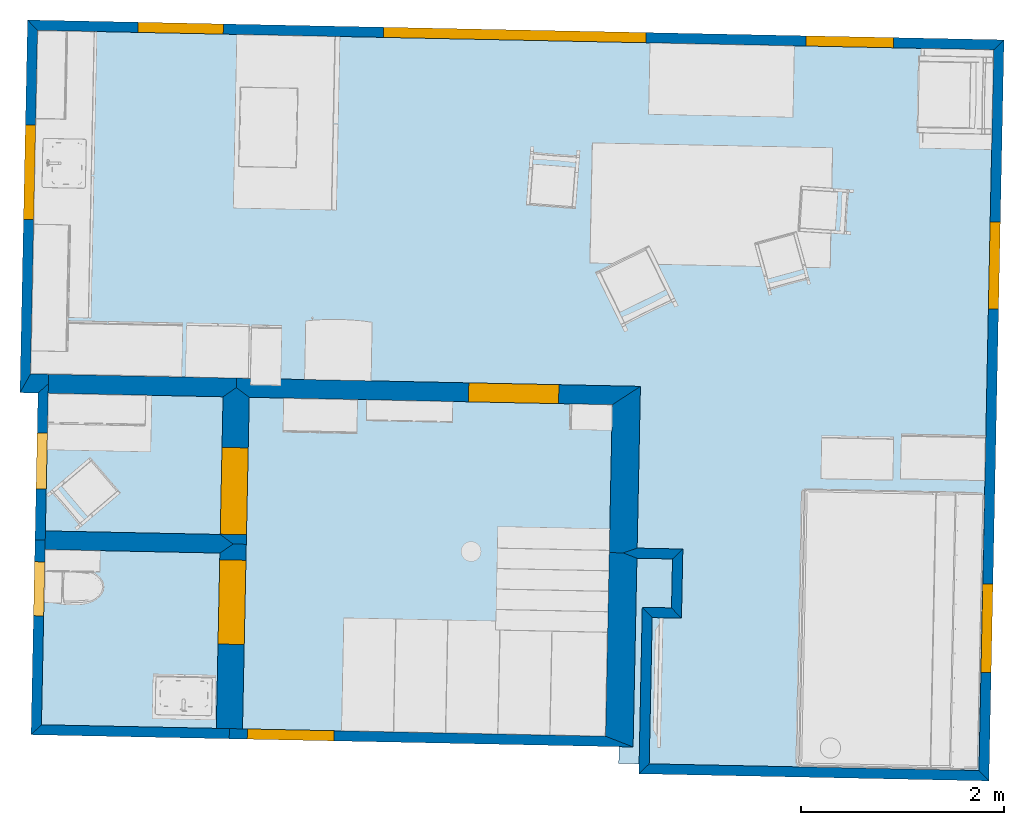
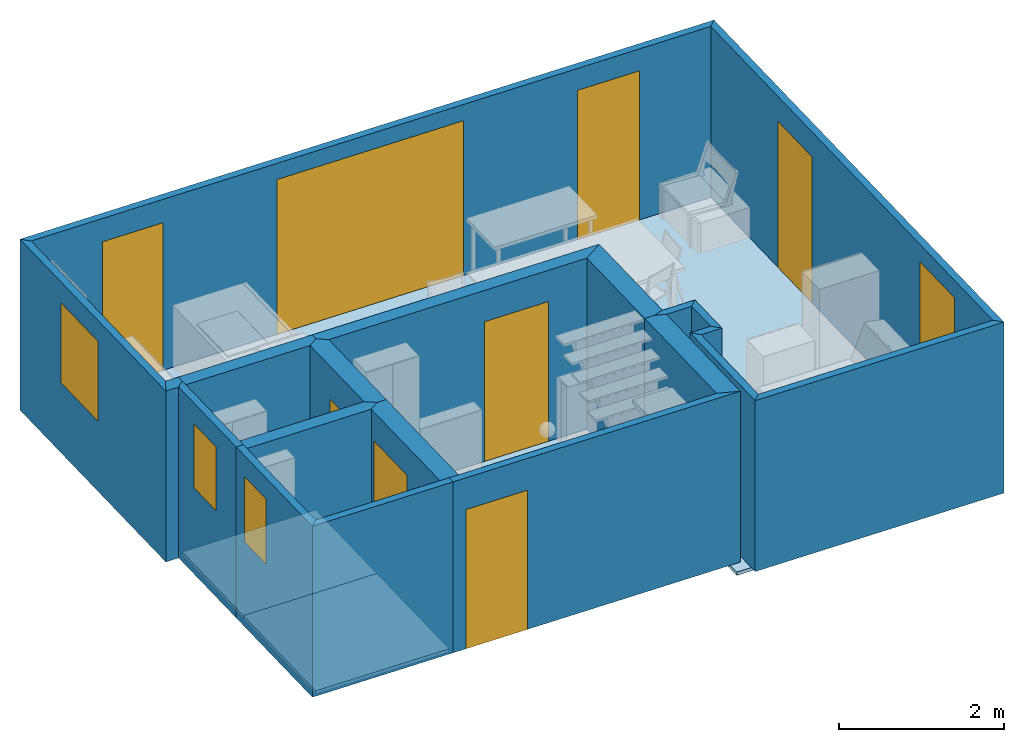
# One storey, part 1 of 8: 20 walls, 8 windows, 5 slabs, 4 doors, 12 openings.
"""IFC2X3 building model written with IfcOpenShell, lengths in metres."""

from ifc_helpers import new_model, si_unit, frame, origin_with_axes, place, context, subcontext, project, spatial, polyline, outline, extrude, type_object, element, fill, save


model = new_model("IFC2X3")

# Units and contexts
model_context = context("Model", 3, precision=1e-05, world=origin_with_axes())
body_context = subcontext(model_context, "Body", "Model", "MODEL_VIEW")
ifc_project = project(units=[si_unit("AREAUNIT", "SQUARE_METRE"), si_unit("LENGTHUNIT", "METRE")], contexts=[model_context])

# Site, building, storey
site_placement = place(None, origin_with_axes())
site = spatial("IfcSite", under=ifc_project, at=site_placement, Name="Site", CompositionType="ELEMENT")
building_placement = place(site_placement, origin_with_axes())
building = spatial("IfcBuilding", under=site, at=building_placement, Name="Building", CompositionType="ELEMENT")
storey_placement = place(building_placement, frame((0.0, 0.0, 2.8867046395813), z_axis=(0.0, 0.0, 1.0), x_axis=(1.0, 0.0, 0.0)))
storey = spatial("IfcBuildingStorey", under=building, at=storey_placement, Name="Story 1", CompositionType="ELEMENT", Elevation=2.8867045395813)

# Slabs
slab_type_1 = type_object("IfcSlabType", PredefinedType="FLOOR")
slab_1_placement = place(storey_placement, frame((-1.98736273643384, -2.66618078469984, 0.0), z_axis=(0.0, 0.0, 1.0), x_axis=(1.0, 0.0, 0.0)))
element("IfcSlab", 1, at=slab_1_placement, inside=storey, type_object=slab_type_1, Name="Floor", ObjectType="Floor:Floor-Grnd-Susp_65Scr-80Ins-100Blk-75PC", PredefinedType="FLOOR", context=body_context, shape_type="SweptSolid", body=[
    extrude(outline(polyline([(0.0, 0.0), (-0.0368688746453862, -1.80962447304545), (-0.042266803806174, -2.07456949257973), (0.207681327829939, -2.07966187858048), (0.238133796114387, -0.584972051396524), (0.528073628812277, -0.590879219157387), (0.539887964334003, -0.0109995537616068), (0.0, 0.0)])), origin_with_axes(), (0.0, 0.0, -1.0), 0.05),
])
slab_type_2 = type_object("IfcSlabType", PredefinedType="FLOOR")
slab_2_placement = place(storey_placement, frame((-7.82754921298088, -0.995759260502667, 0.0), z_axis=(0.0, 0.0, 1.0), x_axis=(1.0, 0.0, 0.0)))
element("IfcSlab", 2, at=slab_2_placement, inside=storey, type_object=slab_type_2, Name="Floor", ObjectType="Floor:Floor-Grnd-Susp_65Scr-80Ins-100Blk-75PC", PredefinedType="FLOOR", context=body_context, shape_type="SweptSolid", body=[
    extrude(outline(polyline([(0.0, 0.0), (0.0708838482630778, 3.47920385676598), (9.49300564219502, 3.28724092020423), (9.34830368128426, -3.81512986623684), (6.0489911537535, -3.74791089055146), (6.07936159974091, -2.25724063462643), (6.3674223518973, -2.26310936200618), (6.37927840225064, -1.68116881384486), (5.8420354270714, -1.67022309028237), (5.87362623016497, -0.119667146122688), (2.0300831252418, -0.0413600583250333), (0.177963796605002, -0.00362558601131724), (0.0, 0.0)])), origin_with_axes(), (0.0, 0.0, -1.0), 0.05),
])
slab_type_3 = type_object("IfcSlabType", PredefinedType="FLOOR")
slab_3_placement = place(storey_placement, frame((-5.82887494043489, -2.57876555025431, 0.0), z_axis=(0.0, 0.0, 1.0), x_axis=(1.0, 0.0, 0.0)))
element("IfcSlab", 3, at=slab_3_placement, inside=storey, type_object=slab_type_3, Name="Floor", ObjectType="Floor:Floor-Grnd-Susp_65Scr-80Ins-100Blk-75PC", PredefinedType="FLOOR", context=body_context, shape_type="SweptSolid", body=[
    extrude(outline(polyline([(0.0, 0.0), (-0.0370547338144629, -1.8187696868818), (-1.88917461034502, -1.78103575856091), (-1.85211993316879, 0.0377347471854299), (0.0, 0.0)])), origin_with_axes(), (0.0, 0.0, -1.0), 0.05),
])
slab_type_4 = type_object("IfcSlabType", PredefinedType="FLOOR")
slab_4_placement = place(storey_placement, frame((-5.79746608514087, -1.0371191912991, 0.0), z_axis=(0.0, 0.0, 1.0), x_axis=(1.0, 0.0, 0.0)))
element("IfcSlab", 4, at=slab_4_placement, inside=storey, type_object=slab_type_4, Name="Floor", ObjectType="Floor:Floor-Grnd-Susp_65Scr-80Ins-100Blk-75PC", PredefinedType="FLOOR", context=body_context, shape_type="SweptSolid", body=[
    extrude(outline(polyline([(0.0, 0.0), (-0.0314091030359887, -1.54164635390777), (-1.88352808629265, -1.50391167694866), (-1.85211933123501, 0.0377343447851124), (0.0, 0.0)])), origin_with_axes(), (0.0, 0.0, -1.0), 0.05),
])
slab_type_5 = type_object("IfcSlabType", PredefinedType="FLOOR")
slab_5_placement = place(storey_placement, frame((-5.86592979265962, -4.3975353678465, 0.0), z_axis=(0.0, 0.0, 1.0), x_axis=(1.0, 0.0, 0.0)))
element("IfcSlab", 5, at=slab_5_placement, inside=storey, type_object=slab_type_5, Name="Floor", ObjectType="Floor:Floor-Grnd-Susp_65Scr-80Ins-100Blk-75PC", PredefinedType="FLOOR", context=body_context, shape_type="SweptSolid", body=[
    extrude(outline(polyline([(0.0, 0.0), (0.0370548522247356, 1.81876981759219), (0.0684637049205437, 3.3604160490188), (3.91200658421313, 3.28210901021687), (3.88041600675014, 1.73155301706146), (3.84354230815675, -0.0783072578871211), (0.0, 0.0)])), origin_with_axes(), (0.0, 0.0, -1.0), 0.05),
])

# Wall
wall_type_1 = type_object("IfcWallType", PredefinedType="STANDARD")
wall_1_placement = place(storey_placement, frame((-1.50909805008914, -3.2078605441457, 0.0), z_axis=(0.0, 0.0, 1.0), x_axis=(1.0, 0.0, 0.0)))
element("IfcWallStandardCase", 6, at=wall_1_placement, inside=storey, type_object=wall_type_1, Name="Wall", context=body_context, shape_type="SweptSolid", body=[
    extrude(outline(polyline([(0.0, 0.0), (0.0979423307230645, -0.102016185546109), (-0.190118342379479, -0.0961473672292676), (-0.288060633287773, 0.00586881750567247), (0.0, 0.0)])), origin_with_axes(), (0.0, 0.0, 1.0), 2.5352838),
])

# Wall, openings, windows
wall_type_2 = type_object("IfcWallType", PredefinedType="STANDARD")
wall_2_placement = place(storey_placement, frame((1.66545641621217, 2.29148134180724, 0.0), z_axis=(0.0, 0.0, 1.0), x_axis=(1.0, 0.0, 0.0)))
wall_2 = element("IfcWallStandardCase", 7, at=wall_2_placement, inside=storey, type_object=wall_type_2, Name="Wall", context=body_context, shape_type="SweptSolid", body=[
    extrude(outline(polyline([(0.0, 0.0), (0.102016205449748, 0.097942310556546), (-0.0467596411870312, -7.20438684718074), (-0.144701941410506, -7.10237064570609), (0.0, 0.0)])), origin_with_axes(), (0.0, 0.0, 1.0), 2.5352838),
])
opening_1_placement = place(wall_2_placement, frame((-0.107234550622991, -5.26336770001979, 1.0422963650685), z_axis=(0.0, 0.0, 1.0), x_axis=(-0.0203695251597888, -0.999792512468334, 0.0)))
opening_1 = element("IfcOpeningElement", 8, at=opening_1_placement, cuts=wall_2, Name="OpeningElement", ObjectType="OPENING", context=body_context, shape_type="SweptSolid", body=[
    extrude(outline(polyline([(-1.59594559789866e-16, 0.0), (0.872122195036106, 0.0), (0.872122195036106, 1.23398111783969), (-1.59594559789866e-16, 1.23398111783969), (-1.59594559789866e-16, 0.0)])), frame((0.0, 0.0, 0.0), z_axis=(0.0, -1.0, 0.0), x_axis=(1.0, 0.0, 0.0)), (0.0, 0.0, -1.0), 0.100100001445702),
])
opening_2_placement = place(wall_2_placement, frame((-0.0345605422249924, -1.69632679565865, 0.0), z_axis=(0.0, 0.0, 1.0), x_axis=(-0.0203695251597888, -0.999792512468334, 0.0)))
opening_2 = element("IfcOpeningElement", 9, at=opening_2_placement, cuts=wall_2, Name="OpeningElement", ObjectType="OPENING", context=body_context, shape_type="SweptSolid", body=[
    extrude(outline(polyline([(-4.16333634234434e-17, 0.0), (0.856266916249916, 0.0), (0.856266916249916, 2.16553516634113), (-4.16333634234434e-17, 2.16553516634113), (-4.16333634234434e-17, 0.0)])), frame((0.0, 0.0, 0.0), z_axis=(0.0, -1.0, 0.0), x_axis=(1.0, 0.0, 0.0)), (0.0, 0.0, -1.0), 0.100100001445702),
])
window_style_1 = type_object("IfcWindowStyle", Name="842c5437-75f5-4c76-bf21-3f50ea26eb9d", ConstructionType="ALUMINIUM", OperationType="SINGLE_PANEL", ParameterTakesPrecedence=True, Sizeable=True)
window_1_placement = place(opening_1_placement, origin_with_axes())
window_1 = element("IfcWindow", 10, at=window_1_placement, inside=storey, type_object=window_style_1, Name="Window", OverallHeight=1.5, OverallWidth=0.5, context=body_context, shape_type="SweptSolid", body=[
    extrude(outline(polyline([(0.0, 0.0), (-0.872122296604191, 0.0), (-0.872122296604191, 1.2339811), (0.0, 1.2339811), (0.0, 0.0)])), frame((0.0, 0.100000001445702, 0.0), z_axis=(0.0, 1.0, 0.0), x_axis=(-1.0, 0.0, 0.0)), (0.0, 0.0, -1.0), 0.100000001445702),
])
fill(opening_1, window_1)
window_style_2 = type_object("IfcWindowStyle", Name="3c9811d2-429e-47aa-9b63-8ebe5b3b27e5", ConstructionType="ALUMINIUM", OperationType="SINGLE_PANEL", ParameterTakesPrecedence=True, Sizeable=True)
window_2_placement = place(opening_2_placement, origin_with_axes())
window_2 = element("IfcWindow", 11, at=window_2_placement, inside=storey, type_object=window_style_2, Name="Window", OverallHeight=1.5, OverallWidth=0.5, context=body_context, shape_type="SweptSolid", body=[
    extrude(outline(polyline([(-4.16333634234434e-17, 0.0), (-0.856267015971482, 0.0), (-0.856267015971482, 2.16553513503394), (-4.16333634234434e-17, 2.16553513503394), (-4.16333634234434e-17, 0.0)])), frame((0.0, 0.100000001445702, 0.0), z_axis=(0.0, 1.0, 0.0), x_axis=(-1.0, 0.0, 0.0)), (0.0, 0.0, -1.0), 0.100000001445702),
])
fill(opening_2, window_2)

# Walls
wall_type_3 = type_object("IfcWallType", PredefinedType="STANDARD")
wall_3_placement = place(storey_placement, frame((-5.79555349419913, -0.943789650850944, 0.0), z_axis=(0.0, 0.0, 1.0), x_axis=(1.0, 0.0, 0.0)))
element("IfcWallStandardCase", 12, at=wall_3_placement, inside=storey, type_object=wall_type_3, Name="Wall", context=body_context, shape_type="SweptSolid", body=[
    extrude(outline(polyline([(0.0, 0.0), (-0.00191259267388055, -0.0933296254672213), (-0.133053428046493, -0.184010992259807), (-1.85592889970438, -0.148704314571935), (-1.85402742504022, -0.0553744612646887), (-1.85211483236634, 0.0379551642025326), (0.0, 0.0)])), origin_with_axes(), (0.0, 0.0, 1.0), 2.5352838),
])
wall_type_4 = type_object("IfcWallType", PredefinedType="STANDARD")
wall_4_placement = place(storey_placement, frame((1.52075447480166, -4.81088930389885, 0.0), z_axis=(0.0, 0.0, 1.0), x_axis=(1.0, 0.0, 0.0)))
element("IfcWallStandardCase", 13, at=wall_4_placement, inside=storey, type_object=wall_type_4, Name="Wall", context=body_context, shape_type="SweptSolid", body=[
    extrude(outline(polyline([(0.0, 0.0), (0.0979423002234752, -0.102016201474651), (-3.35133929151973, -0.0317415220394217), (-3.24932307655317, 0.0662007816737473), (0.0, 0.0)])), origin_with_axes(), (0.0, 0.0, 1.0), 2.5352838),
])
wall_type_5 = type_object("IfcWallType", PredefinedType="STANDARD")
wall_5_placement = place(storey_placement, frame((-1.39726265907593, -2.62795688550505, 0.0), z_axis=(0.0, 0.0, 1.0), x_axis=(1.0, 0.0, 0.0)))
element("IfcWallStandardCase", 14, at=wall_5_placement, inside=storey, type_object=wall_type_5, Name="Wall", context=body_context, shape_type="SweptSolid", body=[
    extrude(outline(polyline([(0.0, 0.0), (-0.102016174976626, -0.0979422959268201), (-0.452511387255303, -0.0908013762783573), (-0.588251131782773, -0.0380254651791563), (-0.450474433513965, 0.00917787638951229), (0.0, 0.0)])), origin_with_axes(), (0.0, 0.0, 1.0), 2.5352838),
])
wall_type_6 = type_object("IfcWallType", PredefinedType="STANDARD")
wall_6_placement = place(storey_placement, frame((-2.09258279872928, -1.2059699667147, 0.0), z_axis=(0.0, 0.0, 1.0), x_axis=(1.0, 0.0, 0.0)))
element("IfcWallStandardCase", 15, at=wall_6_placement, inside=storey, type_object=wall_type_6, Name="Wall", context=body_context, shape_type="SweptSolid", body=[
    extrude(outline(polyline([(0.0, 0.0), (0.277319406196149, 0.181087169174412), (0.244845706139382, -1.41280904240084), (0.107069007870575, -1.4600123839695), (-0.0296892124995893, -1.4572261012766), (0.0, 0.0)])), origin_with_axes(), (0.0, 0.0, 1.0), 2.5352838),
])
wall_type_7 = type_object("IfcWallType", PredefinedType="STANDARD")
wall_7_placement = place(storey_placement, frame((-1.49927883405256, -2.72589918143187, 0.0), z_axis=(0.0, 0.0, 1.0), x_axis=(1.0, 0.0, 0.0)))
element("IfcWallStandardCase", 16, at=wall_7_placement, inside=storey, type_object=wall_type_7, Name="Wall", context=body_context, shape_type="SweptSolid", body=[
    extrude(outline(polyline([(0.0, 0.0), (0.102016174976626, 0.0979422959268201), (0.0881231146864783, -0.583977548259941), (-0.0098192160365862, -0.481961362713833), (0.0, 0.0)])), origin_with_axes(), (0.0, 0.0, 1.0), 2.5352838),
])
wall_type_8 = type_object("IfcWallType", PredefinedType="STANDARD")
wall_8_placement = place(storey_placement, frame((-1.79715868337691, -3.20199172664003, 0.0), z_axis=(0.0, 0.0, 1.0), x_axis=(1.0, 0.0, 0.0)))
element("IfcWallStandardCase", 17, at=wall_8_placement, inside=storey, type_object=wall_type_8, Name="Wall", context=body_context, shape_type="SweptSolid", body=[
    extrude(outline(polyline([(0.0, 0.0), (0.0979422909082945, -0.10201618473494), (0.0685900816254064, -1.54269679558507), (-0.0334261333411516, -1.64063909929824), (0.0, 0.0)])), origin_with_axes(), (0.0, 0.0, 1.0), 2.5352838),
])

# Wall, opening, window
wall_type_9 = type_object("IfcWallType", PredefinedType="STANDARD")
wall_9_placement = place(storey_placement, frame((-7.85460748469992, 2.58546052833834, 0.0), z_axis=(0.0, 0.0, 1.0), x_axis=(1.0, 0.0, 0.0)))
wall_9 = element("IfcWallStandardCase", 18, at=wall_9_placement, inside=storey, type_object=wall_type_9, Name="Wall", context=body_context, shape_type="SweptSolid", body=[
    extrude(outline(polyline([(0.0, 0.0), (0.0979423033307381, -0.102016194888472), (0.0289594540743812, -3.48788976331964), (-0.0748252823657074, -3.67263672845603), (0.0, 0.0)])), origin_with_axes(), (0.0, 0.0, 1.0), 2.5352838),
])
opening_3_placement = place(wall_9_placement, frame((0.0599289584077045, -1.96781879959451, 1.03950391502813), z_axis=(0.0, 0.0, 1.0), x_axis=(0.0203694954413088, 0.99979251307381, 0.0)))
opening_3 = element("IfcOpeningElement", 19, at=opening_3_placement, cuts=wall_9, Name="OpeningElement", ObjectType="OPENING", context=body_context, shape_type="SweptSolid", body=[
    extrude(outline(polyline([(0.0, 0.0), (0.933094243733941, 0.0), (0.933094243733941, 1.18499281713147), (0.0, 1.18499281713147), (0.0, 0.0)])), frame((0.0, 0.0, 0.0), z_axis=(0.0, -1.0, 0.0), x_axis=(1.0, 0.0, 0.0)), (0.0, 0.0, -1.0), 0.100100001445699),
])
window_style_3 = type_object("IfcWindowStyle", Name="60044963-7aaf-4450-8eb9-a37a68160702", ConstructionType="ALUMINIUM", OperationType="SINGLE_PANEL", ParameterTakesPrecedence=True, Sizeable=True)
window_3_placement = place(opening_3_placement, origin_with_axes())
window_3 = element("IfcWindow", 20, at=window_3_placement, inside=storey, type_object=window_style_3, Name="Window", OverallHeight=1.5, OverallWidth=0.5, context=body_context, shape_type="SweptSolid", body=[
    extrude(outline(polyline([(0.0, 0.0), (-0.93309422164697, 0.0), (-0.93309422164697, 1.1849928), (0.0, 1.1849928), (0.0, 0.0)])), frame((0.0, 0.100000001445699, 0.0), z_axis=(0.0, 1.0, 0.0), x_axis=(-1.0, 0.0, 0.0)), (0.0, 0.0, -1.0), 0.100000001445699),
])
fill(opening_3, window_3)

# Wall, openings, windows
wall_type_10 = type_object("IfcWallType", PredefinedType="STANDARD")
wall_10_placement = place(storey_placement, frame((1.76747262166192, 2.38942365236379, 0.0), z_axis=(0.0, 0.0, 1.0), x_axis=(1.0, 0.0, 0.0)))
wall_10 = element("IfcWallStandardCase", 21, at=wall_10_placement, inside=storey, type_object=wall_type_10, Name="Wall", context=body_context, shape_type="SweptSolid", body=[
    extrude(outline(polyline([(0.0, 0.0), (-0.102016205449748, -0.097942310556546), (-9.5241378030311, 0.0940206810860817), (-9.62208010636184, 0.196036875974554), (0.0, 0.0)])), origin_with_axes(), (0.0, 0.0, 1.0), 2.5352838),
])
opening_4_placement = place(wall_10_placement, frame((-1.95279006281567, -0.0602352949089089, 0.0), z_axis=(0.0, 0.0, 1.0), x_axis=(0.999792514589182, -0.0203694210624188, 0.0)))
opening_4 = element("IfcOpeningElement", 22, at=opening_4_placement, cuts=wall_10, Name="OpeningElement", ObjectType="OPENING", context=body_context, shape_type="SweptSolid", body=[
    extrude(outline(polyline([(0.0, 0.0), (0.86247146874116, 0.0), (0.86247146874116, 2.21030083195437), (0.0, 2.21030083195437), (0.0, 0.0)])), frame((0.0, 0.0, 0.0), z_axis=(0.0, -1.0, 0.0), x_axis=(1.0, 0.0, 0.0)), (0.0, 0.0, -1.0), 0.100100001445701),
])
opening_5_placement = place(wall_10_placement, frame((-6.117032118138, 0.02460550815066, 0.0), z_axis=(0.0, 0.0, 1.0), x_axis=(0.999792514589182, -0.0203694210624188, 0.0)))
opening_5 = element("IfcOpeningElement", 23, at=opening_5_placement, cuts=wall_10, Name="OpeningElement", ObjectType="OPENING", context=body_context, shape_type="SweptSolid", body=[
    extrude(outline(polyline([(-8.88178419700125e-16, 0.0), (2.58741420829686, 0.0), (2.58741420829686, 2.29491016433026), (-8.88178419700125e-16, 2.29491016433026), (-8.88178419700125e-16, 0.0)])), frame((0.0, 0.0, 0.0), z_axis=(0.0, -1.0, 0.0), x_axis=(1.0, 0.0, 0.0)), (0.0, 0.0, -1.0), 0.100100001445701),
])
opening_6_placement = place(wall_10_placement, frame((-8.5356569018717, 0.0738817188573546, 0.0), z_axis=(0.0, 0.0, 1.0), x_axis=(0.999792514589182, -0.0203694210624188, 0.0)))
opening_6 = element("IfcOpeningElement", 24, at=opening_6_placement, cuts=wall_10, Name="OpeningElement", ObjectType="OPENING", context=body_context, shape_type="SweptSolid", body=[
    extrude(outline(polyline([(8.88178419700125e-16, 0.0), (0.84143535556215, 0.0), (0.84143535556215, 2.18914813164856), (8.88178419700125e-16, 2.18914813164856), (8.88178419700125e-16, 0.0)])), frame((0.0, 0.0, 0.0), z_axis=(0.0, -1.0, 0.0), x_axis=(1.0, 0.0, 0.0)), (0.0, 0.0, -1.0), 0.100100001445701),
])
window_style_4 = type_object("IfcWindowStyle", Name="a5297e8e-90e4-40ba-baca-cfb5e8a1b3e4", ConstructionType="ALUMINIUM", OperationType="SINGLE_PANEL", ParameterTakesPrecedence=True, Sizeable=True)
window_4_placement = place(opening_4_placement, origin_with_axes())
window_4 = element("IfcWindow", 25, at=window_4_placement, inside=storey, type_object=window_style_4, Name="Window", OverallHeight=1.5, OverallWidth=0.5, context=body_context, shape_type="SweptSolid", body=[
    extrude(outline(polyline([(0.0, 0.0), (-0.862471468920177, 0.0), (-0.862471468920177, 2.2103008), (0.0, 2.2103008), (0.0, 0.0)])), frame((0.0, 0.100000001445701, 0.0), z_axis=(0.0, 1.0, 0.0), x_axis=(-1.0, 0.0, 0.0)), (0.0, 0.0, -1.0), 0.100000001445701),
])
fill(opening_4, window_4)
window_style_5 = type_object("IfcWindowStyle", Name="1c9653bb-b9ee-46d2-94d3-9e7e5d4b0484", ConstructionType="ALUMINIUM", OperationType="SINGLE_PANEL", ParameterTakesPrecedence=True, Sizeable=True)
window_5_placement = place(opening_5_placement, origin_with_axes())
window_5 = element("IfcWindow", 26, at=window_5_placement, inside=storey, type_object=window_style_5, Name="Window", OverallHeight=1.5, OverallWidth=0.5, context=body_context, shape_type="SweptSolid", body=[
    extrude(outline(polyline([(0.0, 0.0), (-2.58741420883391, 0.0), (-2.58741420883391, 2.29491013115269), (0.0, 2.29491013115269), (0.0, 0.0)])), frame((0.0, 0.100000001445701, 0.0), z_axis=(0.0, 1.0, 0.0), x_axis=(-1.0, 0.0, 0.0)), (0.0, 0.0, -1.0), 0.100000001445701),
])
fill(opening_5, window_5)
window_style_6 = type_object("IfcWindowStyle", Name="9062c780-352e-4946-9028-365405382569", ConstructionType="ALUMINIUM", OperationType="SINGLE_PANEL", ParameterTakesPrecedence=True, Sizeable=True)
window_6_placement = place(opening_6_placement, origin_with_axes())
window_6 = element("IfcWindow", 27, at=window_6_placement, inside=storey, type_object=window_style_6, Name="Window", OverallHeight=1.5, OverallWidth=0.5, context=body_context, shape_type="SweptSolid", body=[
    extrude(outline(polyline([(0.0, 0.0), (-0.841435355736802, 0.0), (-0.841435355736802, 2.1891481), (0.0, 2.1891481), (0.0, 0.0)])), frame((0.0, 0.100000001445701, 0.0), z_axis=(0.0, 1.0, 0.0), x_axis=(-1.0, 0.0, 0.0)), (0.0, 0.0, -1.0), 0.100000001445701),
])
fill(opening_6, window_6)

# Wall, opening, door
wall_type_11 = type_object("IfcWallType", PredefinedType="STANDARD")
wall_11_placement = place(storey_placement, frame((-1.81526339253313, -1.02488279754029, 0.0), z_axis=(0.0, 0.0, 1.0), x_axis=(1.0, 0.0, 0.0)))
wall_11 = element("IfcWallStandardCase", 28, at=wall_11_placement, inside=storey, type_object=wall_type_11, Name="Wall", context=body_context, shape_type="SweptSolid", body=[
    extrude(outline(polyline([(0.0, 0.0), (-0.277319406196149, -0.181087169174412), (-3.85486448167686, -0.108199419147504), (-3.98220269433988, -0.012236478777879), (-3.98030122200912, 0.0810933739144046), (0.0, 0.0)])), origin_with_axes(), (0.0, 0.0, 1.0), 2.5352838),
])
opening_7_placement = place(wall_11_placement, frame((-0.803266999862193, 0.0163655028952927, 0.0), z_axis=(0.0, 0.0, 1.0), x_axis=(-0.999792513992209, 0.0203694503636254, 0.0)))
opening_7 = element("IfcOpeningElement", 29, at=opening_7_placement, cuts=wall_11, Name="OpeningElement", ObjectType="OPENING", context=body_context, shape_type="SweptSolid", body=[
    extrude(outline(polyline([(0.0, 0.0), (0.888219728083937, 0.0), (0.888219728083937, 2.07098462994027), (0.0, 2.07098462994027), (0.0, 0.0)])), frame((0.0, 0.0, 0.0), z_axis=(0.0, -1.0, 0.0), x_axis=(1.0, 0.0, 0.0)), (0.0, 0.0, -1.0), 0.186798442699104),
])
door_style_1 = type_object("IfcDoorStyle", Name="2be6bf7f-c157-41c7-89a8-6a98334fb959", ConstructionType="NOTDEFINED", OperationType="NOTDEFINED", ParameterTakesPrecedence=False, Sizeable=False)
door_1_placement = place(opening_7_placement, origin_with_axes())
door_1 = element("IfcDoor", 30, at=door_1_placement, inside=storey, type_object=door_style_1, Name="Door", OverallHeight=2.0709846, OverallWidth=0.888219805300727, context=body_context, shape_type="SweptSolid", body=[
    extrude(outline(polyline([(4.44089209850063e-16, 0.0), (-0.888219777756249, 0.0), (-0.888219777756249, 2.0709846), (4.44089209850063e-16, 2.0709846), (4.44089209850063e-16, 0.0)])), frame((0.0, 0.186698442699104, 0.0), z_axis=(0.0, 1.0, 0.0), x_axis=(-1.0, 0.0, 0.0)), (0.0, 0.0, -1.0), 0.186698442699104),
])
fill(opening_7, door_1)

# Wall
wall_type_12 = type_object("IfcWallType", PredefinedType="STANDARD")
wall_12_placement = place(storey_placement, frame((-7.82564803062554, -0.902429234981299, 0.0), z_axis=(0.0, 0.0, 1.0), x_axis=(1.0, 0.0, 0.0)))
element("IfcWallStandardCase", 31, at=wall_12_placement, inside=storey, type_object=wall_type_12, Name="Wall", context=body_context, shape_type="SweptSolid", body=[
    extrude(outline(polyline([(0.0, 0.0), (0.177852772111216, -0.00340273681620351), (0.176067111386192, -0.0967348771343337), (0.0741838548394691, -0.188151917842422), (-0.103784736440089, -0.184746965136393), (0.0, 0.0)])), origin_with_axes(), (0.0, 0.0, 1.0), 2.5352838),
])

# Wall, opening, door
wall_type_13 = type_object("IfcWallType", PredefinedType="STANDARD")
wall_13_placement = place(storey_placement, frame((-5.9599826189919, -2.6678162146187, 0.0), z_axis=(0.0, 0.0, 1.0), x_axis=(1.0, 0.0, 0.0)))
wall_13 = element("IfcWallStandardCase", 32, at=wall_13_placement, inside=storey, type_object=wall_type_13, Name="Wall", context=body_context, shape_type="SweptSolid", body=[
    extrude(outline(polyline([(0.0, 0.0), (0.131107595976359, 0.08905066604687), (0.260347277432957, 0.0864176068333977), (0.223292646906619, -1.73235221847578), (0.0940529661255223, -1.72971912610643), (-0.0351867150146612, -1.72708605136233), (0.0, 0.0)])), origin_with_axes(), (0.0, 0.0, 1.0), 2.5352838),
])
opening_8_placement = place(wall_13_placement, frame((0.240219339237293, -0.901531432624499, 0.0), z_axis=(0.0, 0.0, 1.0), x_axis=(0.0203692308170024, 0.999792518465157, 0.0)))
opening_8 = element("IfcOpeningElement", 33, at=opening_8_placement, cuts=wall_13, Name="OpeningElement", ObjectType="OPENING", context=body_context, shape_type="SweptSolid", body=[
    extrude(outline(polyline([(0.0, 0.0), (0.830266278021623, 0.0), (0.830266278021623, 2.10671038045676), (0.0, 2.10671038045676), (0.0, 0.0)])), frame((0.0, 0.0, 0.0), z_axis=(0.0, -1.0, 0.0), x_axis=(1.0, 0.0, 0.0)), (0.0, 0.0, -1.0), 0.258633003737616),
])
door_style_2 = type_object("IfcDoorStyle", Name="07f4d62a-6951-42d1-8611-8afc2e39923c", ConstructionType="NOTDEFINED", OperationType="NOTDEFINED", ParameterTakesPrecedence=False, Sizeable=False)
door_2_placement = place(opening_8_placement, origin_with_axes())
door_2 = element("IfcDoor", 34, at=door_2_placement, inside=storey, type_object=door_style_2, Name="Door", OverallHeight=2.10671035, OverallWidth=0.830266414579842, context=body_context, shape_type="SweptSolid", body=[
    extrude(outline(polyline([(2.08166817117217e-16, 0.0), (-0.830266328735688, 0.0), (-0.830266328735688, 2.10671035), (2.08166817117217e-16, 2.10671035), (2.08166817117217e-16, 0.0)])), frame((0.0, 0.258533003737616, 0.0), z_axis=(0.0, 1.0, 0.0), x_axis=(-1.0, 0.0, 0.0)), (0.0, 0.0, -1.0), 0.258533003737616),
])
fill(opening_8, door_2)

# Wall
wall_type_14 = type_object("IfcWallType", PredefinedType="STANDARD")
wall_14_placement = place(storey_placement, frame((-5.99516933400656, -4.39490226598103, 0.0), z_axis=(0.0, 0.0, 1.0), x_axis=(1.0, 0.0, 0.0)))
element("IfcWallStandardCase", 35, at=wall_14_placement, inside=storey, type_object=wall_type_14, Name="Wall", context=body_context, shape_type="SweptSolid", body=[
    extrude(outline(polyline([(0.0, 0.0), (0.129239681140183, -0.00263307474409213), (0.127202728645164, -0.102612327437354), (-1.82489662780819, -0.0628410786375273), (-1.72288041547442, 0.0351012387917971), (0.0, 0.0)])), origin_with_axes(), (0.0, 0.0, 1.0), 2.5352838),
])

# Wall, opening, window
wall_type_15 = type_object("IfcWallType", PredefinedType="STANDARD")
wall_15_placement = place(storey_placement, frame((-7.78097371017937, -2.53899409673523, 0.0), z_axis=(0.0, 0.0, 1.0), x_axis=(1.0, 0.0, 0.0)))
wall_15 = element("IfcWallStandardCase", 36, at=wall_15_placement, inside=storey, type_object=wall_type_15, Name="Wall", context=body_context, shape_type="SweptSolid", body=[
    extrude(outline(polyline([(0.0, 0.0), (0.099979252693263, -0.00203695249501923), (0.0981113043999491, -0.0937207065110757), (0.06292396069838, -1.82080693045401), (-0.0390922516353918, -1.91874924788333), (0.0, 0.0)])), origin_with_axes(), (0.0, 0.0, 1.0), 2.5352838),
])
opening_9_placement = place(wall_15_placement, frame((0.0847798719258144, -0.748062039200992, 1.25686106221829), z_axis=(0.0, 0.0, 1.0), x_axis=(0.0203695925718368, 0.999792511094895, 0.0)))
opening_9 = element("IfcOpeningElement", 37, at=opening_9_placement, cuts=wall_15, Name="OpeningElement", ObjectType="OPENING", context=body_context, shape_type="SweptSolid", body=[
    extrude(outline(polyline([(1.11022302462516e-16, 0.0), (0.532593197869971, 0.0), (0.532593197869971, 0.96826072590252), (1.11022302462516e-16, 0.96826072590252), (1.11022302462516e-16, 0.0)])), frame((0.0, 0.0, 0.0), z_axis=(0.0, -1.0, 0.0), x_axis=(1.0, 0.0, 0.0)), (0.0, 0.0, -1.0), 0.100100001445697),
])
window_style_7 = type_object("IfcWindowStyle", Name="35f8889d-09b9-4227-81bc-8e413d8d472e", ConstructionType="ALUMINIUM", OperationType="SINGLE_PANEL", ParameterTakesPrecedence=True, Sizeable=True)
window_7_placement = place(opening_9_placement, origin_with_axes())
window_7 = element("IfcWindow", 38, at=window_7_placement, inside=storey, type_object=window_style_7, Name="Window", OverallHeight=1.5, OverallWidth=0.5, context=body_context, shape_type="SweptSolid", body=[
    extrude(outline(polyline([(5.55111512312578e-17, 0.0), (-0.53259322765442, 0.0), (-0.53259322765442, 0.968260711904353), (5.55111512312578e-17, 0.968260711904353), (5.55111512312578e-17, 0.0)])), frame((0.0, 0.100000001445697, 0.0), z_axis=(0.0, 1.0, 0.0), x_axis=(-1.0, 0.0, 0.0)), (0.0, 0.0, -1.0), 0.100000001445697),
])
fill(opening_9, window_7)

# Wall
wall_type_16 = type_object("IfcWallType", PredefinedType="STANDARD")
wall_16_placement = place(storey_placement, frame((-5.9562467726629, -2.48444870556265, 0.0), z_axis=(0.0, 0.0, 1.0), x_axis=(1.0, 0.0, 0.0)))
element("IfcWallStandardCase", 39, at=wall_16_placement, inside=storey, type_object=wall_type_16, Name="Wall", context=body_context, shape_type="SweptSolid", body=[
    extrude(outline(polyline([(0.0, 0.0), (0.127371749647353, -0.0943168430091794), (-0.00373584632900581, -0.183367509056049), (-1.72661563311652, -0.148266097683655), (-1.72474768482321, -0.0565823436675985), (-1.72287974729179, 0.0351014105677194), (0.0, 0.0)])), origin_with_axes(), (0.0, 0.0, 1.0), 2.5352838),
])

# Wall, opening, window
wall_type_17 = type_object("IfcWallType", PredefinedType="STANDARD")
wall_17_placement = place(storey_placement, frame((-7.75146417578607, -1.09058115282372, 0.0), z_axis=(0.0, 0.0, 1.0), x_axis=(1.0, 0.0, 0.0)))
wall_17 = element("IfcWallStandardCase", 40, at=wall_17_placement, inside=storey, type_object=wall_type_17, Name="Wall", context=body_context, shape_type="SweptSolid", body=[
    extrude(outline(polyline([(0.0, 0.0), (0.101883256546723, 0.0914170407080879), (0.0999817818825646, -0.0019128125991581), (0.0723376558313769, -1.35876614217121), (0.0704697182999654, -1.45044989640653), (-0.0295095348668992, -1.44841296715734), (0.0, 0.0)])), origin_with_axes(), (0.0, 0.0, 1.0), 2.5352838),
])
opening_10_placement = place(wall_17_placement, frame((0.0807194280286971, -0.947364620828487, 1.27847594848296), z_axis=(0.0, 0.0, 1.0), x_axis=(0.0203694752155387, 0.999792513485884, 0.0)))
opening_10 = element("IfcOpeningElement", 41, at=opening_10_placement, cuts=wall_17, Name="OpeningElement", ObjectType="OPENING", context=body_context, shape_type="SweptSolid", body=[
    extrude(outline(polyline([(-1.38777878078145e-16, 0.0), (0.553337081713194, 0.0), (0.553337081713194, 0.946867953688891), (-1.38777878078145e-16, 0.946867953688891), (-1.38777878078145e-16, 0.0)])), frame((0.0, 0.0, 0.0), z_axis=(0.0, -1.0, 0.0), x_axis=(1.0, 0.0, 0.0)), (0.0, 0.0, -1.0), 0.100100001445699),
])
window_style_8 = type_object("IfcWindowStyle", Name="ffb85228-7268-486a-bbdb-d5b8e5f803af", ConstructionType="ALUMINIUM", OperationType="SINGLE_PANEL", ParameterTakesPrecedence=True, Sizeable=True)
window_8_placement = place(opening_10_placement, origin_with_axes())
window_8 = element("IfcWindow", 42, at=window_8_placement, inside=storey, type_object=window_style_8, Name="Window", OverallHeight=1.5, OverallWidth=0.5, context=body_context, shape_type="SweptSolid", body=[
    extrude(outline(polyline([(2.77555756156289e-17, 0.0), (-0.553337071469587, 0.0), (-0.553337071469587, 0.94686794), (2.77555756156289e-17, 0.94686794), (2.77555756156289e-17, 0.0)])), frame((0.0, 0.100000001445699, 0.0), z_axis=(0.0, 1.0, 0.0), x_axis=(-1.0, 0.0, 0.0)), (0.0, 0.0, -1.0), 0.100000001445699),
])
fill(opening_10, window_8)

# Wall, opening, door
wall_type_18 = type_object("IfcWallType", PredefinedType="STANDARD")
wall_18_placement = place(storey_placement, frame((-5.92860692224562, -1.12780064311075, 0.0), z_axis=(0.0, 0.0, 1.0), x_axis=(1.0, 0.0, 0.0)))
wall_18 = element("IfcWallStandardCase", 43, at=wall_18_placement, inside=storey, type_object=wall_type_18, Name="Wall", context=body_context, shape_type="SweptSolid", body=[
    extrude(outline(polyline([(0.0, 0.0), (0.131140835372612, 0.0906813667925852), (0.258479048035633, -0.00528157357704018), (0.228971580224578, -1.45359798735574), (0.0997318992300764, -1.45096490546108), (-0.0276398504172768, -1.3566480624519), (0.0, 0.0)])), origin_with_axes(), (0.0, 0.0, 1.0), 2.5352838),
])
opening_11_placement = place(wall_18_placement, frame((0.230892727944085, -1.3593022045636, 0.0), z_axis=(0.0, 0.0, 1.0), x_axis=(0.0203694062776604, 0.999792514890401, 0.0)))
opening_11 = element("IfcOpeningElement", 44, at=opening_11_placement, cuts=wall_18, Name="OpeningElement", ObjectType="OPENING", context=body_context, shape_type="SweptSolid", body=[
    extrude(outline(polyline([(-2.22044604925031e-16, 0.0), (0.855806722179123, 0.0), (0.855806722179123, 2.04656636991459), (-2.22044604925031e-16, 2.04656636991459), (-2.22044604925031e-16, 0.0)])), frame((0.0, 0.0, 0.0), z_axis=(0.0, -1.0, 0.0), x_axis=(1.0, 0.0, 0.0)), (0.0, 0.0, -1.0), 0.258633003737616),
])
door_style_3 = type_object("IfcDoorStyle", Name="9f600278-288f-4d44-8040-153bcbaaf1f5", ConstructionType="NOTDEFINED", OperationType="NOTDEFINED", ParameterTakesPrecedence=False, Sizeable=False)
door_3_placement = place(opening_11_placement, origin_with_axes())
door_3 = element("IfcDoor", 45, at=door_3_placement, inside=storey, type_object=door_style_3, Name="Door", OverallHeight=2.04656615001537, OverallWidth=0.855806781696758, context=body_context, shape_type="SweptSolid", body=[
    extrude(outline(polyline([(5.55111512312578e-17, 0.0), (-0.855806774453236, 0.0), (-0.855806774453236, 2.04656634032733), (5.55111512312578e-17, 2.04656634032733), (5.55111512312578e-17, 0.0)])), frame((0.0, 0.258533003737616, 0.0), z_axis=(0.0, 1.0, 0.0), x_axis=(-1.0, 0.0, 0.0)), (0.0, 0.0, -1.0), 0.258533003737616),
])
fill(opening_11, door_3)

# Wall
wall_type_19 = type_object("IfcWallType", PredefinedType="STANDARD")
wall_19_placement = place(storey_placement, frame((-2.12227201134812, -2.66319607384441, 0.0), z_axis=(0.0, 0.0, 1.0), x_axis=(1.0, 0.0, 0.0)))
element("IfcWallStandardCase", 46, at=wall_19_placement, inside=storey, type_object=wall_type_19, Name="Wall", context=body_context, shape_type="SweptSolid", body=[
    extrude(outline(polyline([(0.0, 0.0), (0.136758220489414, -0.00278627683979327), (0.272497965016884, -0.0555621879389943), (0.234605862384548, -1.91541202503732), (-0.0368736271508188, -1.80986022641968), (0.0, 0.0)])), origin_with_axes(), (0.0, 0.0, 1.0), 2.5352838),
])

# Wall, opening, door
wall_type_20 = type_object("IfcWallType", PredefinedType="STANDARD")
wall_20_placement = place(storey_placement, frame((-2.15914563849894, -4.47305630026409, 0.0), z_axis=(0.0, 0.0, 1.0), x_axis=(1.0, 0.0, 0.0)))
wall_20 = element("IfcWallStandardCase", 47, at=wall_20_placement, inside=storey, type_object=wall_type_20, Name="Wall", context=body_context, shape_type="SweptSolid", body=[
    extrude(outline(polyline([(0.0, 0.0), (0.271479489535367, -0.105551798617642), (-3.70882096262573, -0.0244582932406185), (-3.70678401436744, 0.0755209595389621), (-3.57754433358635, 0.0728878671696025), (0.0, 0.0)])), origin_with_axes(), (0.0, 0.0, 1.0), 2.5352838),
])
opening_12_placement = place(wall_20_placement, frame((-2.67430608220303, 0.0544855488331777, 0.0), z_axis=(0.0, 0.0, 1.0), x_axis=(-0.999792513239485, 0.0203694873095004, 0.0)))
opening_12 = element("IfcOpeningElement", 48, at=opening_12_placement, cuts=wall_20, Name="OpeningElement", ObjectType="OPENING", context=body_context, shape_type="SweptSolid", body=[
    extrude(outline(polyline([(0.0, 0.0), (0.855013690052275, 0.0), (0.855013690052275, 2.06385736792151), (0.0, 2.06385736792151), (0.0, 0.0)])), frame((0.0, 0.0, 0.0), z_axis=(0.0, -1.0, 0.0), x_axis=(1.0, 0.0, 0.0)), (0.0, 0.0, -1.0), 0.100100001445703),
])
door_style_4 = type_object("IfcDoorStyle", Name="3ac41e9d-4c5d-4b25-87be-550c92c504d2", ConstructionType="NOTDEFINED", OperationType="NOTDEFINED", ParameterTakesPrecedence=False, Sizeable=False)
door_4_placement = place(opening_12_placement, origin_with_axes())
door_4 = element("IfcDoor", 49, at=door_4_placement, inside=storey, type_object=door_style_4, Name="Door", OverallHeight=2.06385733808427, OverallWidth=0.855013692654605, context=body_context, shape_type="SweptSolid", body=[
    extrude(outline(polyline([(0.0, 0.0), (-0.855013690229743, 0.0), (-0.855013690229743, 2.06385733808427), (0.0, 2.06385733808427), (0.0, 0.0)])), frame((0.0, 0.100000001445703, 0.0), z_axis=(0.0, 1.0, 0.0), x_axis=(-1.0, 0.0, 0.0)), (0.0, 0.0, -1.0), 0.100000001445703),
])
fill(opening_12, door_4)

save(model, "model.ifc")
